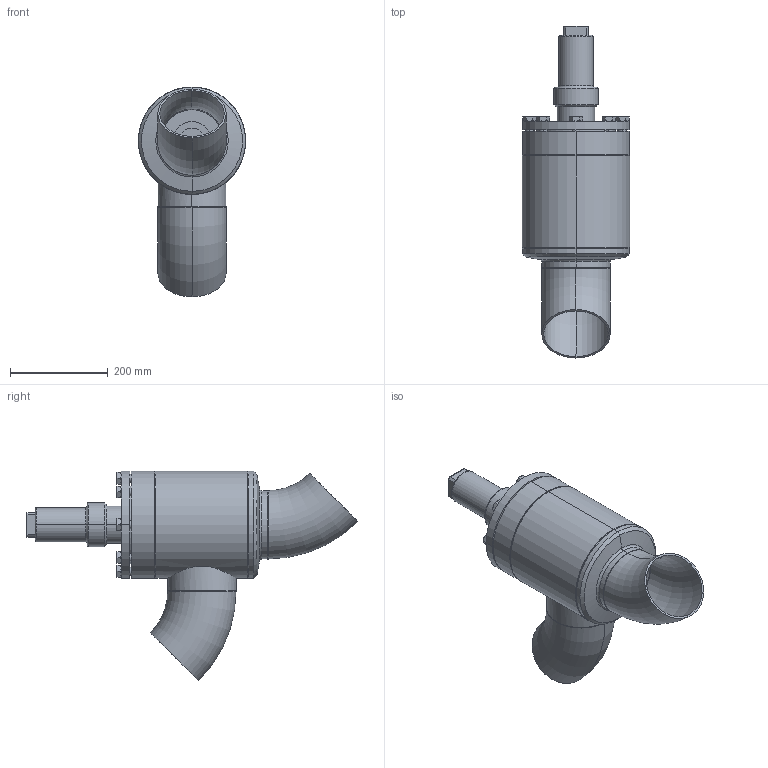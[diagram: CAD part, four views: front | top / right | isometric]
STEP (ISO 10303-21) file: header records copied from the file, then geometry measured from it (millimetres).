
FILE_DESCRIPTION (( 'STEP AP214' ), '1' );
FILE_NAME ('HRAR22300D20-DN125_R1_PS40.STEP', '2006-04-27T12:34:02', ( 'Herr Grams' ), ( 'AWP GmbH' ), 'SwSTEP 2.0', 'SolidWorks 2002296', '' );
FILE_SCHEMA (( 'AUTOMOTIVE_DESIGN' ));
Length unit declared in the file: millimetre
Products named in the file (15): HRAR22300D20-DN125_R1_PS40; AVR26300E20_Deck+Schr-DN125_Standard; Deckel26300E20-DN125_Standard; Sechskantschraube-DIN933_M16x 45; Gehäuse-kpl16300-DN125_R1_Standard; Gehäuse16300-DN125_Standard; Kopfstück16300-DN125_Standard; Rohrstutzen-A16300-DN125_R1_Standard; Rohrbogen 45°_Rohrbogen-DN125-45°; bead-DN125-2_Standard; bead-DN125-1_Standard; bead-DN125-3_Standard; bead-DN125-4_Standard; Boden16300-DN125_Standard; Kappe16402_DN125-150_Standard
Assembly tree (22 placements, depth 3):
  HRAR22300D20-DN125_R1_PS40
    Kappe16402_DN125-150_Standard
    Gehäuse-kpl16300-DN125_R1_Standard
      bead-DN125-3_Standard
      bead-DN125-4_Standard
      bead-DN125-2_Standard
      Gehäuse16300-DN125_Standard
      Boden16300-DN125_Standard
      Rohrstutzen-A16300-DN125_R1_Standard
      bead-DN125-1_Standard
      Rohrbogen 45°_Rohrbogen-DN125-45°  x2
      Kopfstück16300-DN125_Standard
    AVR26300E20_Deck+Schr-DN125_Standard
      Sechskantschraube-DIN933_M16x 45  x8
      Deckel26300E20-DN125_Standard
Bounding box: 219.55 x 678.74 x 429.02 mm (x, y, z)
Volume: 5798883.3 mm3; surface area: 1078769.4 mm2
Topology: 20 solids, 20 shells, 370 faces, 782 edges, 470 vertices
Faces by surface type: cone 126, plane 117, cylinder 91, torus 20, bspline 16
Entity records: 8579 total; most frequent: CARTESIAN_POINT 3562, DIRECTION 910, ORIENTED_EDGE 812, EDGE_CURVE 406, AXIS2_PLACEMENT_3D 398, VERTEX_POINT 252, EDGE_LOOP 236, CIRCLE 198
